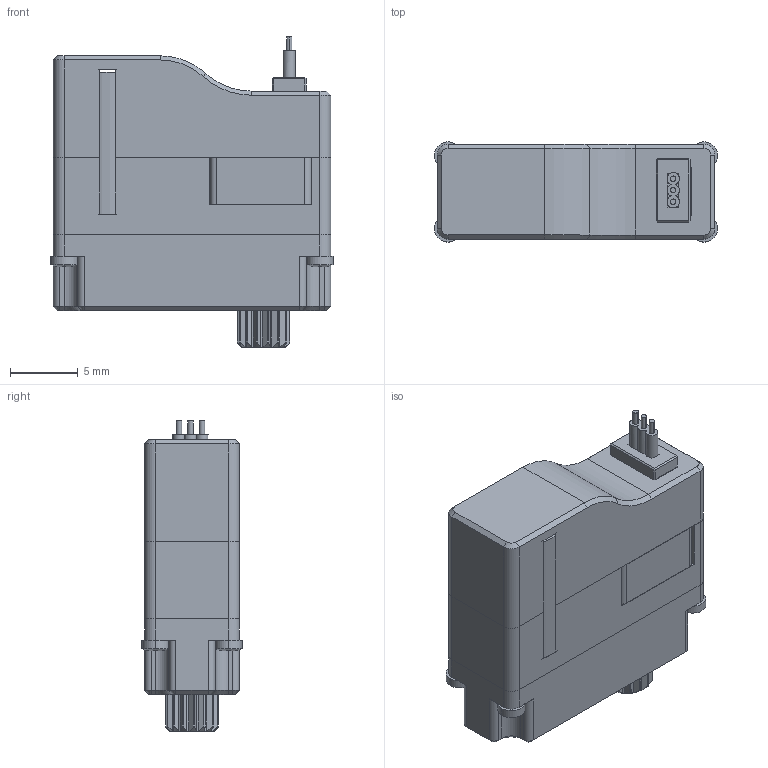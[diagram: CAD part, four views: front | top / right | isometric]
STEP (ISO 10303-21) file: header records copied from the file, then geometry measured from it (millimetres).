
FILE_DESCRIPTION (( 'STEP AP214' ), '1' );
FILE_NAME ('A06N LV_DM_20221118.STEP', '2022-11-18T07:01:44', ( '微软用户' ), ( '微软中国' ), 'SwSTEP 2.0', 'SolidWorks 2016', '' );
FILE_SCHEMA (( 'AUTOMOTIVE_DESIGN' ));
Length unit declared in the file: millimetre
Products named in the file (1): A06N LV_DM_20221118
Bounding box: 20.9 x 7.4 x 22.9 mm (x, y, z)
Surface area: 1761.2 mm2 (no closed solid volume)
Topology: 0 solids, 14 shells, 321 faces, 981 edges, 662 vertices
Faces by surface type: plane 170, cylinder 105, cone 38, sphere 8
Entity records: 14612 total; most frequent: CARTESIAN_POINT 2282, DIRECTION 1902, ORIENTED_EDGE 1727, EDGE_CURVE 981, AXIS2_PLACEMENT_3D 694, VERTEX_POINT 662, VECTOR 514, LINE 514
